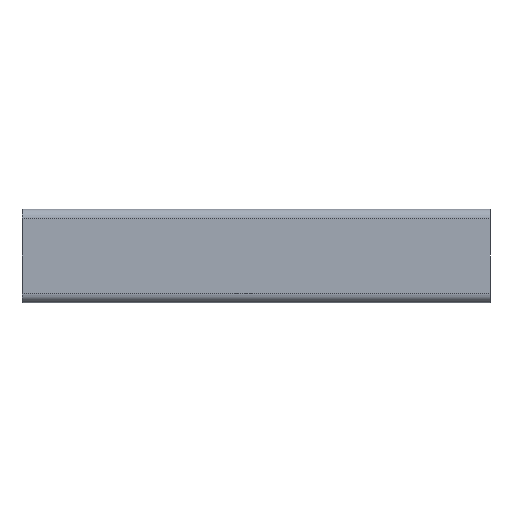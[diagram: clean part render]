
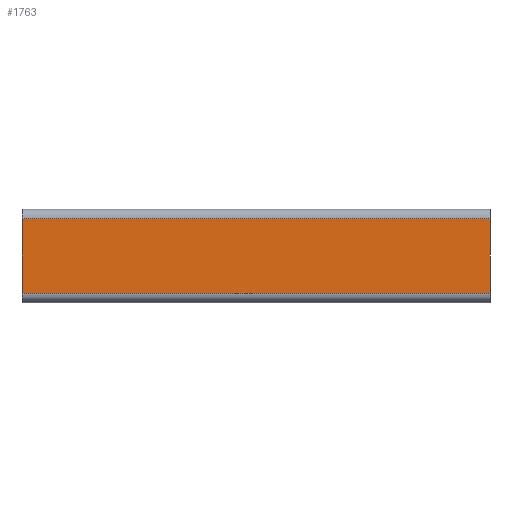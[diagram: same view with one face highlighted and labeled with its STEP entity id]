
A CAD part, left-side view. The second image highlights one B-rep face of the part: STEP entity #1763.
In plain terms, the highlighted planar face has unit normal (-1, 0, 0).
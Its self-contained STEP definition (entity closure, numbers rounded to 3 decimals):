
#19 = VECTOR ( 'NONE', #1447, 1000. ) ;
#55 = CARTESIAN_POINT ( 'NONE',  ( -10., 50., -8. ) ) ;
#106 = CARTESIAN_POINT ( 'NONE',  ( -10., -50., 8. ) ) ;
#158 = CARTESIAN_POINT ( 'NONE',  ( -10., -50., -8. ) ) ;
#216 = EDGE_CURVE ( 'NONE', #563, #2134, #2351, .T. ) ;
#243 = VECTOR ( 'NONE', #264, 1000. ) ;
#264 = DIRECTION ( 'NONE',  ( 0., -1., 0. ) ) ;
#429 = LINE ( 'NONE', #2379, #2505 ) ;
#433 = CARTESIAN_POINT ( 'NONE',  ( -10., -50., -8. ) ) ;
#563 = VERTEX_POINT ( 'NONE', #833 ) ;
#583 = ORIENTED_EDGE ( 'NONE', *, *, #1278, .F. ) ;
#596 = ORIENTED_EDGE ( 'NONE', *, *, #2610, .F. ) ;
#694 = FACE_OUTER_BOUND ( 'NONE', #2131, .T. ) ;
#766 = VERTEX_POINT ( 'NONE', #106 ) ;
#832 = DIRECTION ( 'NONE',  ( 0., -1., 0. ) ) ;
#833 = CARTESIAN_POINT ( 'NONE',  ( -10., 50., -8. ) ) ;
#896 = PLANE ( 'NONE',  #2631 ) ;
#924 = DIRECTION ( 'NONE',  ( 0., 0., 1. ) ) ;
#1241 = LINE ( 'NONE', #1863, #1897 ) ;
#1278 = EDGE_CURVE ( 'NONE', #1360, #766, #1241, .T. ) ;
#1312 = DIRECTION ( 'NONE',  ( 1., 0., 0. ) ) ;
#1360 = VERTEX_POINT ( 'NONE', #2136 ) ;
#1447 = DIRECTION ( 'NONE',  ( 0., 0., 1. ) ) ;
#1763 = ADVANCED_FACE ( 'NONE', ( #694 ), #896, .F. ) ;
#1863 = CARTESIAN_POINT ( 'NONE',  ( -10., 50., 8. ) ) ;
#1897 = VECTOR ( 'NONE', #832, 1000. ) ;
#1938 = ORIENTED_EDGE ( 'NONE', *, *, #2079, .T. ) ;
#2035 = LINE ( 'NONE', #433, #19 ) ;
#2079 = EDGE_CURVE ( 'NONE', #2134, #766, #2035, .T. ) ;
#2113 = CARTESIAN_POINT ( 'NONE',  ( -10., 50., -8. ) ) ;
#2131 = EDGE_LOOP ( 'NONE', ( #1938, #583, #596, #2603 ) ) ;
#2134 = VERTEX_POINT ( 'NONE', #158 ) ;
#2136 = CARTESIAN_POINT ( 'NONE',  ( -10., 50., 8. ) ) ;
#2351 = LINE ( 'NONE', #55, #243 ) ;
#2354 = DIRECTION ( 'NONE',  ( 0., 0., -1. ) ) ;
#2379 = CARTESIAN_POINT ( 'NONE',  ( -10., 50., -8. ) ) ;
#2505 = VECTOR ( 'NONE', #924, 1000. ) ;
#2603 = ORIENTED_EDGE ( 'NONE', *, *, #216, .T. ) ;
#2610 = EDGE_CURVE ( 'NONE', #563, #1360, #429, .T. ) ;
#2631 = AXIS2_PLACEMENT_3D ( 'NONE', #2113, #1312, #2354 ) ;
